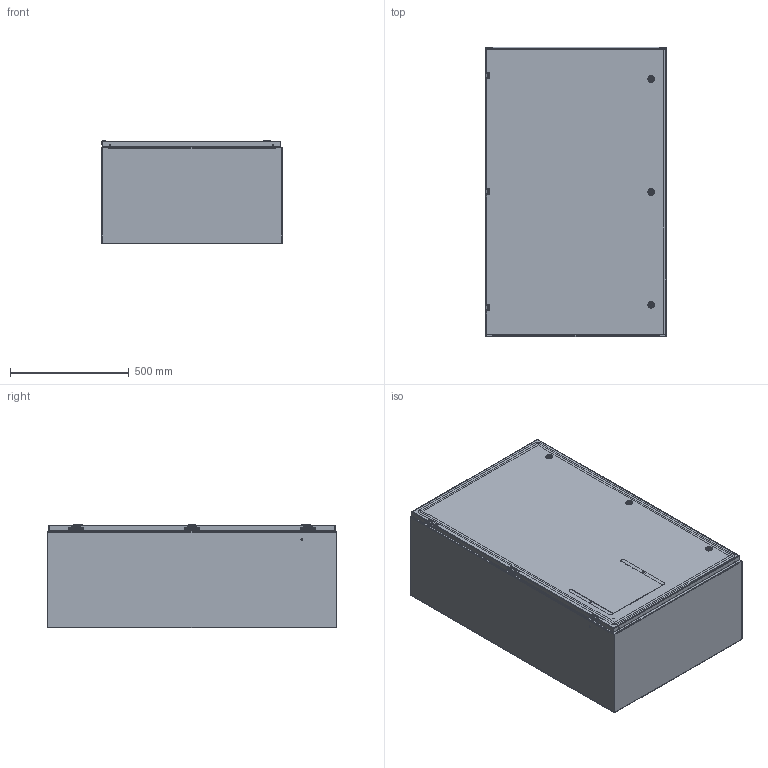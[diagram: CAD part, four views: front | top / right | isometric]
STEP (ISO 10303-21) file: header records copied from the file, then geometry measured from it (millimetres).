
FILE_DESCRIPTION((''),'2;1');
FILE_NAME('MODEL-305_ASM','2025-02-20T15:03:16',('joshi'),('SAGINAW CONTROL & ENGINEERING'),'CREO PARAMETRIC BY PTC INC, 2021284','CREO PARAMETRIC BY PTC INC, 2021284','');
FILE_SCHEMA(('AUTOMOTIVE_DESIGN { 1 0 10303 214 1 1 1 1 }'));
Length unit declared in the file: inch
Products named in the file (29): MODEL-305-BDY; MODEL-305-TP; MODEL-305-BTM; MODEL-305-DR; 100837; 100882; 111267; 100794_SHAFT; 100794_INSERT; 100794_CAM; 100794_NUT; 100794_SCREW; 100794_ASM; MODEL-305-DOOR-GASKET; 126391; 126391_ASM; 126393; 102483; 101226; 101376; 102140; 132757; MODEL-305-DOOR-ASSY_ASM; 101653; 122192; SUBPANEL; 100904; SUBPANEL-SUBASSEMBLY_ASM; MODEL-305_ASM
Assembly tree (64 placements, depth 4):
  MODEL-305_ASM
    MODEL-305-BDY
    MODEL-305-TP
    MODEL-305-BTM
    MODEL-305-DOOR-ASSY_ASM
      MODEL-305-DR
      100837  x3
      100882  x2
      111267
      100794_ASM  x3
        100794_SHAFT
        100794_INSERT
        100794_CAM
        100794_NUT
        100794_SCREW
      MODEL-305-DOOR-GASKET
      126391_ASM  x3
        126391
      126393  x3
      102483  x9
      101226  x3
      101376  x3
      102140  x3
      132757  x3
    100837
    101653  x6
    122192
    SUBPANEL-SUBASSEMBLY_ASM
      SUBPANEL
      100904  x6
Bounding box: 762 x 1219.2 x 437.53 mm (x, y, z)
Volume: 10463474.1 mm3; surface area: 9527673.3 mm2
Topology: 70 solids, 70 shells, 4112 faces, 10399 edges, 6532 vertices
Faces by surface type: plane 1857, cylinder 1184, bspline 504, torus 307, cone 180, sphere 80
Entity records: 88089 total; most frequent: CARTESIAN_POINT 24971, ORIENTED_EDGE 9112, DIRECTION 8688, PRESENTATION_STYLE_ASSIGNMENT 4754, EDGE_CURVE 4556, STYLED_ITEM 4479, CURVE_STYLE 4394, AXIS2_PLACEMENT_3D 3182
